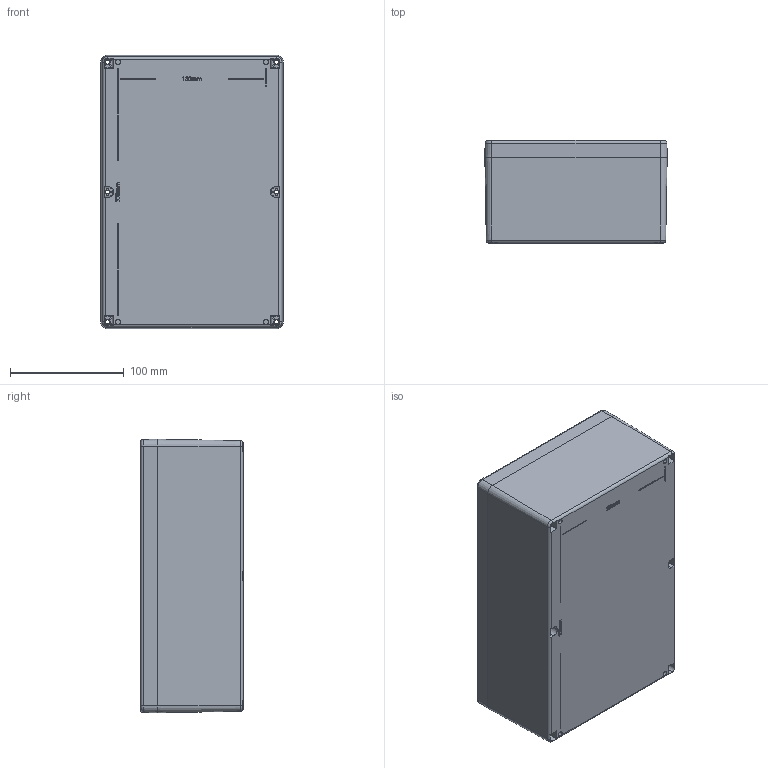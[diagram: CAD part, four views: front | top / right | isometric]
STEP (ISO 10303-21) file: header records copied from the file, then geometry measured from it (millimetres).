
FILE_DESCRIPTION (( 'STEP AP214' ), '1' );
FILE_NAME ('ZP 14 asm.STEP', '2014-10-27T11:39:04', ( '' ), ( '' ), 'SwSTEP 2.0', 'SolidWorks 2014', '' );
FILE_SCHEMA (( 'AUTOMOTIVE_DESIGN' ));
Length unit declared in the file: millimetre
Products named in the file (3): ZP 14 asm; ZP 14 Base; ZP 14 lid
Assembly tree (2 placements, depth 2):
  ZP 14 asm
    ZP 14 Base
    ZP 14 lid
Bounding box: 160 x 90.25 x 240 mm (x, y, z)
Volume: 408735.4 mm3; surface area: 327669 mm2
Topology: 2 solids, 2 shells, 1176 faces, 3124 edges, 2014 vertices
Faces by surface type: plane 679, cone 276, cylinder 119, bspline 88, torus 14
Entity records: 41378 total; most frequent: CARTESIAN_POINT 12321, ORIENTED_EDGE 6192, DIRECTION 5746, EDGE_CURVE 3096, VECTOR 2044, LINE 2044, VERTEX_POINT 2014, AXIS2_PLACEMENT_3D 1851
